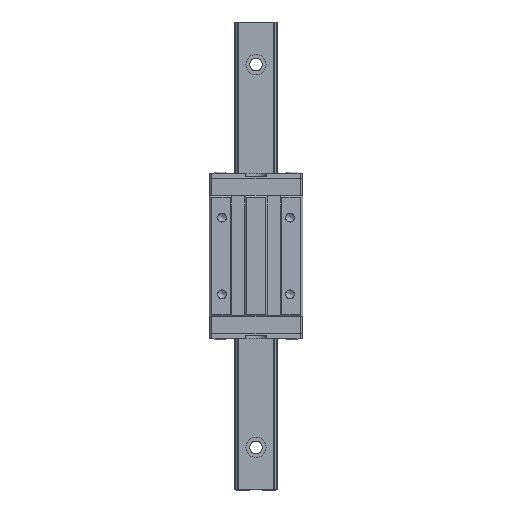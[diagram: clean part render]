
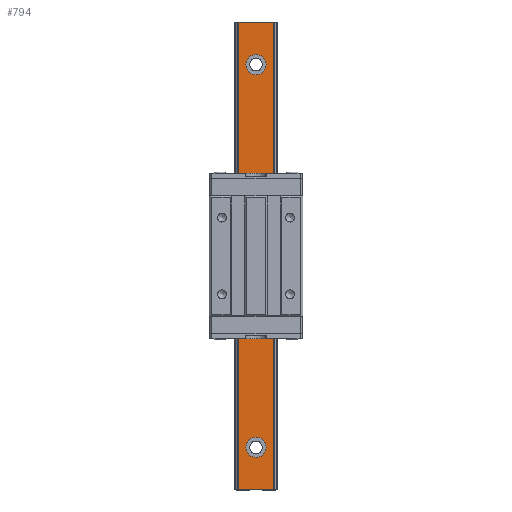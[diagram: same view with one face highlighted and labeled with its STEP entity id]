
A CAD part, top view. The second image highlights one B-rep face of the part: STEP entity #794.
In plain terms, the highlighted planar face has unit normal (0, 0, 1).
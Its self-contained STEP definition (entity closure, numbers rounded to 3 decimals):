
#794 = ADVANCED_FACE( '', ( #1649, #1650, #1651, #1652, #1653 ), #1654, .T. );
#1649 = FACE_BOUND( '', #2523, .T. );
#1650 = FACE_BOUND( '', #2524, .T. );
#1651 = FACE_BOUND( '', #2525, .T. );
#1652 = FACE_BOUND( '', #2526, .T. );
#1653 = FACE_OUTER_BOUND( '', #2527, .T. );
#1654 = PLANE( '', #2528 );
#2523 = EDGE_LOOP( '', ( #3671 ) );
#2524 = EDGE_LOOP( '', ( #3672 ) );
#2525 = EDGE_LOOP( '', ( #3673 ) );
#2526 = EDGE_LOOP( '', ( #3674 ) );
#2527 = EDGE_LOOP( '', ( #3675, #3676, #3677, #3678 ) );
#2528 = AXIS2_PLACEMENT_3D( '', #3679, #3680, #3681 );
#3671 = ORIENTED_EDGE( '', *, *, #6488, .T. );
#3672 = ORIENTED_EDGE( '', *, *, #6489, .T. );
#3673 = ORIENTED_EDGE( '', *, *, #6490, .T. );
#3674 = ORIENTED_EDGE( '', *, *, #6491, .T. );
#3675 = ORIENTED_EDGE( '', *, *, #6438, .F. );
#3676 = ORIENTED_EDGE( '', *, *, #6487, .F. );
#3677 = ORIENTED_EDGE( '', *, *, #6471, .T. );
#3678 = ORIENTED_EDGE( '', *, *, #6492, .T. );
#3679 = CARTESIAN_POINT( '', ( 8.25, -110., 16.5 ) );
#3680 = DIRECTION( '', ( 0., 0., 1. ) );
#3681 = DIRECTION( '', ( 1., 0., 0. ) );
#6438 = EDGE_CURVE( '', #7374, #7376, #7377, .T. );
#6471 = EDGE_CURVE( '', #7440, #7438, #7441, .T. );
#6487 = EDGE_CURVE( '', #7440, #7374, #7464, .T. );
#6488 = EDGE_CURVE( '', #7465, #7465, #7466, .T. );
#6489 = EDGE_CURVE( '', #7467, #7467, #7468, .T. );
#6490 = EDGE_CURVE( '', #7469, #7469, #7470, .T. );
#6491 = EDGE_CURVE( '', #7471, #7471, #7472, .T. );
#6492 = EDGE_CURVE( '', #7438, #7376, #7473, .T. );
#7374 = VERTEX_POINT( '', #8604 );
#7376 = VERTEX_POINT( '', #8607 );
#7377 = LINE( '', #8608, #8609 );
#7438 = VERTEX_POINT( '', #8693 );
#7440 = VERTEX_POINT( '', #8696 );
#7441 = LINE( '', #8697, #8698 );
#7464 = LINE( '', #8734, #8735 );
#7465 = VERTEX_POINT( '', #8736 );
#7466 = CIRCLE( '', #8737, 4.75 );
#7467 = VERTEX_POINT( '', #8738 );
#7468 = CIRCLE( '', #8739, 4.75 );
#7469 = VERTEX_POINT( '', #8740 );
#7470 = CIRCLE( '', #8741, 4.75 );
#7471 = VERTEX_POINT( '', #8742 );
#7472 = CIRCLE( '', #8743, 4.75 );
#7473 = LINE( '', #8744, #8745 );
#8604 = CARTESIAN_POINT( '', ( -8.25, 110., 16.5 ) );
#8607 = CARTESIAN_POINT( '', ( 8.25, 110., 16.5 ) );
#8608 = CARTESIAN_POINT( '', ( 8.25, 110., 16.5 ) );
#8609 = VECTOR( '', #10862, 1000. );
#8693 = CARTESIAN_POINT( '', ( 8.25, -110., 16.5 ) );
#8696 = CARTESIAN_POINT( '', ( -8.25, -110., 16.5 ) );
#8697 = CARTESIAN_POINT( '', ( 8.25, -110., 16.5 ) );
#8698 = VECTOR( '', #10911, 1000. );
#8734 = CARTESIAN_POINT( '', ( -8.25, -110., 16.5 ) );
#8735 = VECTOR( '', #10931, 1000. );
#8736 = CARTESIAN_POINT( '', ( 4.75, 90., 16.5 ) );
#8737 = AXIS2_PLACEMENT_3D( '', #10932, #10933, #10934 );
#8738 = CARTESIAN_POINT( '', ( 4.75, 30., 16.5 ) );
#8739 = AXIS2_PLACEMENT_3D( '', #10935, #10936, #10937 );
#8740 = CARTESIAN_POINT( '', ( 4.75, -30., 16.5 ) );
#8741 = AXIS2_PLACEMENT_3D( '', #10938, #10939, #10940 );
#8742 = CARTESIAN_POINT( '', ( 4.75, -90., 16.5 ) );
#8743 = AXIS2_PLACEMENT_3D( '', #10941, #10942, #10943 );
#8744 = CARTESIAN_POINT( '', ( 8.25, -110., 16.5 ) );
#8745 = VECTOR( '', #10944, 1000. );
#10862 = DIRECTION( '', ( 1., 0., 0. ) );
#10911 = DIRECTION( '', ( 1., 0., 0. ) );
#10931 = DIRECTION( '', ( 0., 1., 0. ) );
#10932 = CARTESIAN_POINT( '', ( 0., 90., 16.5 ) );
#10933 = DIRECTION( '', ( 0., 0., -1. ) );
#10934 = DIRECTION( '', ( 1., 0., 0. ) );
#10935 = CARTESIAN_POINT( '', ( 0., 30., 16.5 ) );
#10936 = DIRECTION( '', ( 0., 0., -1. ) );
#10937 = DIRECTION( '', ( 1., 0., 0. ) );
#10938 = CARTESIAN_POINT( '', ( 0., -30., 16.5 ) );
#10939 = DIRECTION( '', ( 0., 0., -1. ) );
#10940 = DIRECTION( '', ( 1., 0., 0. ) );
#10941 = CARTESIAN_POINT( '', ( 0., -90., 16.5 ) );
#10942 = DIRECTION( '', ( 0., 0., -1. ) );
#10943 = DIRECTION( '', ( 1., 0., 0. ) );
#10944 = DIRECTION( '', ( 0., 1., 0. ) );
